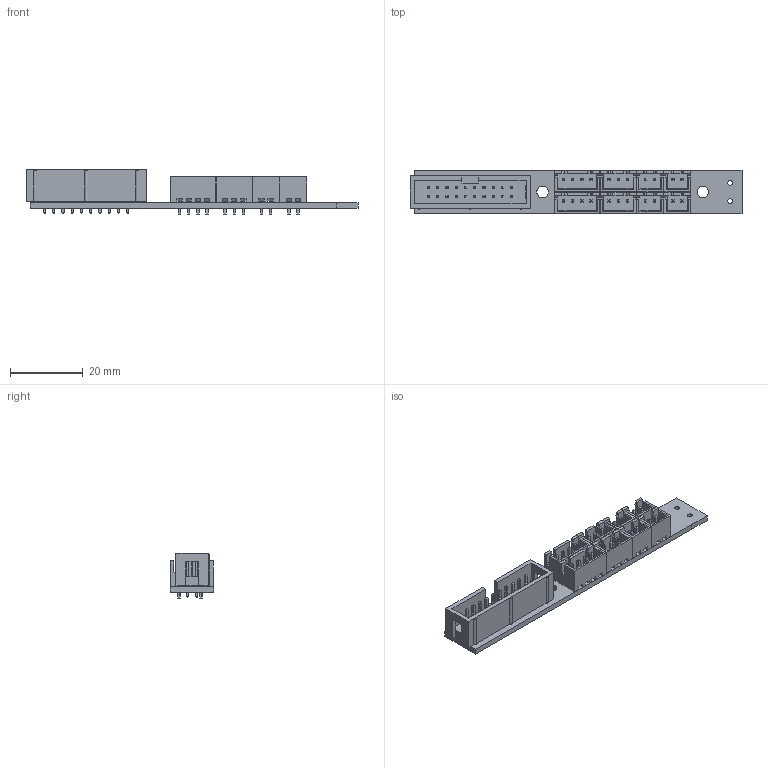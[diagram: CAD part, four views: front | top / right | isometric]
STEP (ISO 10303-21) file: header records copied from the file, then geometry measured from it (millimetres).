
FILE_DESCRIPTION(('KiCad electronic assembly'),'2;1');
FILE_NAME('RKE-Long.step','2022-02-13T22:48:03',('An Author'),( 'A Company'),'Open CASCADE STEP processor 7.5', 'KiCad to STEP converter','Unknown');
FILE_SCHEMA(('AUTOMOTIVE_DESIGN { 1 0 10303 214 1 1 1 1 }'));
Length unit declared in the file: millimetre
Products named in the file (10): Open CASCADE STEP translator 7.5 1; JST_XH_B4B-XH-A_1x04_P2.50mm_Vertical; SOLID; IDC-Header_2x10_P2.54mm_Vertical; JST_XH_B2B-XH-A_1x02_P2.50mm_Vertical; JST_XH_B3B-XH-A_1x03_P2.50mm_Vertical; COMPOUND
Assembly tree (14 placements, depth 3):
  Open CASCADE STEP translator 7.5 1
    JST_XH_B4B-XH-A_1x04_P2.50mm_Vertical  x2
      SOLID
    IDC-Header_2x10_P2.54mm_Vertical
      SOLID
    JST_XH_B2B-XH-A_1x02_P2.50mm_Vertical  x4
      SOLID
    JST_XH_B3B-XH-A_1x03_P2.50mm_Vertical  x2
      SOLID
    COMPOUND
Bounding box: 91.21 x 12 x 12.5 mm (x, y, z)
Volume: 4468.8 mm3; surface area: 8716 mm2
Topology: 10 solids, 10 shells, 1328 faces, 3384 edges, 2162 vertices
Faces by surface type: plane 1241, cylinder 87
Full cylindrical faces by diameter (mm): 0.95 x14, 1 x34, 1.3 x2, 3.2 x2
Entity records: 55040 total; most frequent: CARTESIAN_POINT 8709, DIRECTION 7639, LINE 5693, VECTOR 5693, ORIENTED_EDGE 3982, PCURVE 3982, DEFINITIONAL_REPRESENTATION 3982, EDGE_CURVE 1991
